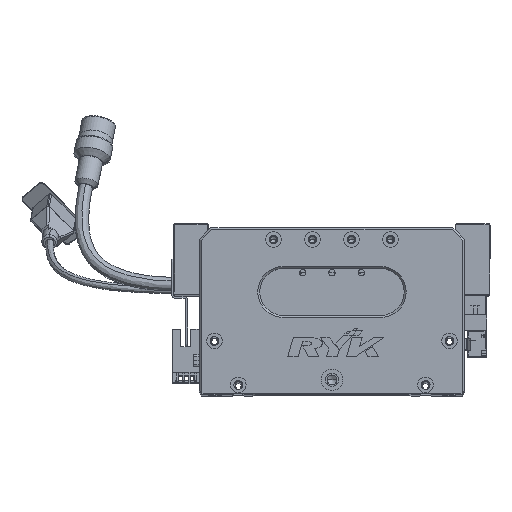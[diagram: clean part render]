
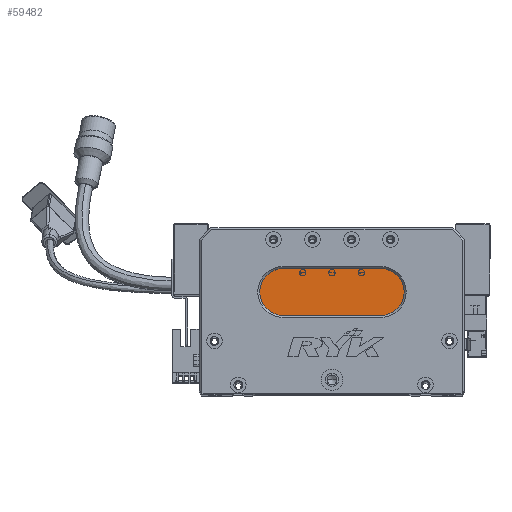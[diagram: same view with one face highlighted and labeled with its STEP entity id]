
A CAD part, top view. The second image highlights one B-rep face of the part: STEP entity #59482.
In plain terms, the highlighted planar face has unit normal (0, 0, 1) as drawn and (0, 0, -1) by its records, which use the part's own axes.
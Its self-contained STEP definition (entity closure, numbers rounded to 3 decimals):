
#274 = DIRECTION ( 'NONE',  ( 1., 0., 0. ) ) ;
#1769 = DIRECTION ( 'NONE',  ( -1., 0., 0. ) ) ;
#2008 = PLANE ( 'NONE',  #39693 ) ;
#2189 = ORIENTED_EDGE ( 'NONE', *, *, #50793, .T. ) ;
#11422 = CIRCLE ( 'NONE', #18649, 12. ) ;
#12312 = DIRECTION ( 'NONE',  ( -1., 0., 0. ) ) ;
#13384 = DIRECTION ( 'NONE',  ( 0., 0., -1. ) ) ;
#15411 = DIRECTION ( 'NONE',  ( -1., 0., 0. ) ) ;
#18649 = AXIS2_PLACEMENT_3D ( 'NONE', #41078, #28970, #12312 ) ;
#19674 = VECTOR ( 'NONE', #57582, 1000. ) ;
#21109 = CARTESIAN_POINT ( 'NONE',  ( 43., 52., 13. ) ) ;
#21919 = VERTEX_POINT ( 'NONE', #27045 ) ;
#23366 = LINE ( 'NONE', #52323, #73026 ) ;
#24021 = CARTESIAN_POINT ( 'NONE',  ( 43., 64., 13. ) ) ;
#24535 = DIRECTION ( 'NONE',  ( 0., 0., -1. ) ) ;
#24960 = EDGE_CURVE ( 'NONE', #42333, #61962, #23366, .T. ) ;
#27045 = CARTESIAN_POINT ( 'NONE',  ( 93., 40., 13. ) ) ;
#28970 = DIRECTION ( 'NONE',  ( 0., 0., -1. ) ) ;
#29813 = CARTESIAN_POINT ( 'NONE',  ( 93., 40., 13. ) ) ;
#29976 = EDGE_CURVE ( 'NONE', #61962, #21919, #11422, .T. ) ;
#30330 = CARTESIAN_POINT ( 'NONE',  ( 31., 52., 13. ) ) ;
#31295 = CIRCLE ( 'NONE', #57106, 12. ) ;
#38387 = EDGE_LOOP ( 'NONE', ( #72477, #48655, #62173, #2189, #69079 ) ) ;
#39693 = AXIS2_PLACEMENT_3D ( 'NONE', #47353, #13384, #1769 ) ;
#41078 = CARTESIAN_POINT ( 'NONE',  ( 93., 52., 13. ) ) ;
#42333 = VERTEX_POINT ( 'NONE', #24021 ) ;
#43656 = VERTEX_POINT ( 'NONE', #71474 ) ;
#44032 = AXIS2_PLACEMENT_3D ( 'NONE', #70183, #24535, #69929 ) ;
#44632 = DIRECTION ( 'NONE',  ( 0., 0., -1. ) ) ;
#47353 = CARTESIAN_POINT ( 'NONE',  ( 93., 52., 13. ) ) ;
#48655 = ORIENTED_EDGE ( 'NONE', *, *, #64294, .T. ) ;
#50793 = EDGE_CURVE ( 'NONE', #71094, #42333, #70958, .T. ) ;
#52056 = CARTESIAN_POINT ( 'NONE',  ( 93., 64., 13. ) ) ;
#52158 = FACE_OUTER_BOUND ( 'NONE', #38387, .T. ) ;
#52323 = CARTESIAN_POINT ( 'NONE',  ( 93., 64., 13. ) ) ;
#55066 = EDGE_CURVE ( 'NONE', #43656, #71094, #31295, .T. ) ;
#57106 = AXIS2_PLACEMENT_3D ( 'NONE', #21109, #44632, #15411 ) ;
#57582 = DIRECTION ( 'NONE',  ( -1., 0., 0. ) ) ;
#59482 = ADVANCED_FACE ( 'NONE', ( #52158 ), #2008, .T. ) ;
#59559 = LINE ( 'NONE', #29813, #19674 ) ;
#61962 = VERTEX_POINT ( 'NONE', #52056 ) ;
#62173 = ORIENTED_EDGE ( 'NONE', *, *, #55066, .T. ) ;
#64294 = EDGE_CURVE ( 'NONE', #21919, #43656, #59559, .T. ) ;
#69079 = ORIENTED_EDGE ( 'NONE', *, *, #24960, .T. ) ;
#69929 = DIRECTION ( 'NONE',  ( -1., 0., 0. ) ) ;
#70183 = CARTESIAN_POINT ( 'NONE',  ( 43., 52., 13. ) ) ;
#70958 = CIRCLE ( 'NONE', #44032, 12. ) ;
#71094 = VERTEX_POINT ( 'NONE', #30330 ) ;
#71474 = CARTESIAN_POINT ( 'NONE',  ( 43., 40., 13. ) ) ;
#72477 = ORIENTED_EDGE ( 'NONE', *, *, #29976, .T. ) ;
#73026 = VECTOR ( 'NONE', #274, 1000. ) ;
